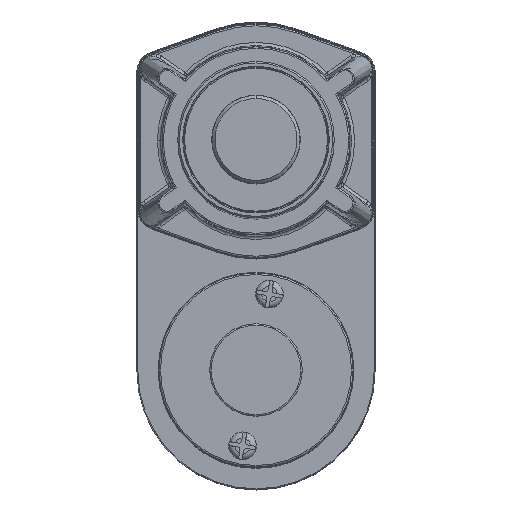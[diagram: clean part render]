
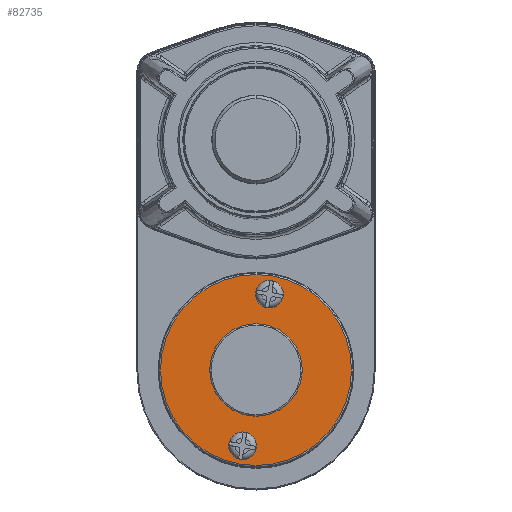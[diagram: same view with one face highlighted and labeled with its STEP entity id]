
A CAD part, top view. The second image highlights one B-rep face of the part: STEP entity #82735.
In plain terms, the highlighted planar face has unit normal (0, 0, 1).
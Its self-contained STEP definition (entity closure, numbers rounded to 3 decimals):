
#747 = AXIS2_PLACEMENT_3D ( 'NONE', #60428, #66387, #8330 ) ;
#856 = CARTESIAN_POINT ( 'NONE',  ( -23.132, -76.733, 284.9 ) ) ;
#925 = FACE_OUTER_BOUND ( 'NONE', #2626, .T. ) ;
#1962 = VERTEX_POINT ( 'NONE', #67743 ) ;
#2626 = EDGE_LOOP ( 'NONE', ( #69393, #29488 ) ) ;
#3771 = ORIENTED_EDGE ( 'NONE', *, *, #61554, .F. ) ;
#4762 = VERTEX_POINT ( 'NONE', #59608 ) ;
#5433 = VERTEX_POINT ( 'NONE', #69090 ) ;
#7645 = CARTESIAN_POINT ( 'NONE',  ( -12.626, -17.152, 284.9 ) ) ;
#8330 = DIRECTION ( 'NONE',  ( -0.174, -0.985, 0. ) ) ;
#8889 = CARTESIAN_POINT ( 'NONE',  ( -21.308, -66.393, 284.9 ) ) ;
#10092 = AXIS2_PLACEMENT_3D ( 'NONE', #37552, #56198, #76562 ) ;
#10600 = EDGE_CURVE ( 'NONE', #4762, #12603, #67512, .T. ) ;
#12603 = VERTEX_POINT ( 'NONE', #8889 ) ;
#15774 = AXIS2_PLACEMENT_3D ( 'NONE', #31474, #70870, #83191 ) ;
#18019 = DIRECTION ( 'NONE',  ( 0., 0., 1. ) ) ;
#20453 = CARTESIAN_POINT ( 'NONE',  ( -15.144, -31.432, 284.9 ) ) ;
#23199 = VERTEX_POINT ( 'NONE', #856 ) ;
#23806 = EDGE_LOOP ( 'NONE', ( #66860, #24923 ) ) ;
#23807 = EDGE_LOOP ( 'NONE', ( #26124, #46422 ) ) ;
#24791 = CARTESIAN_POINT ( 'NONE',  ( -17.749, -46.204, 284.9 ) ) ;
#24923 = ORIENTED_EDGE ( 'NONE', *, *, #29355, .F. ) ;
#25087 = PLANE ( 'NONE',  #15774 ) ;
#25538 = FACE_BOUND ( 'NONE', #23807, .T. ) ;
#26124 = ORIENTED_EDGE ( 'NONE', *, *, #37424, .F. ) ;
#29355 = EDGE_CURVE ( 'NONE', #36467, #81028, #49880, .T. ) ;
#29488 = ORIENTED_EDGE ( 'NONE', *, *, #62336, .T. ) ;
#31474 = CARTESIAN_POINT ( 'NONE',  ( -2.976, -48.809, 284.9 ) ) ;
#36327 = AXIS2_PLACEMENT_3D ( 'NONE', #49403, #82067, #75282 ) ;
#36467 = VERTEX_POINT ( 'NONE', #20453 ) ;
#37424 = EDGE_CURVE ( 'NONE', #12603, #4762, #46639, .T. ) ;
#37516 = AXIS2_PLACEMENT_3D ( 'NONE', #55238, #42075, #75150 ) ;
#37552 = CARTESIAN_POINT ( 'NONE',  ( -22.09, -70.824, 284.9 ) ) ;
#37826 = FACE_BOUND ( 'NONE', #23806, .T. ) ;
#38741 = AXIS2_PLACEMENT_3D ( 'NONE', #51718, #77596, #45342 ) ;
#39132 = AXIS2_PLACEMENT_3D ( 'NONE', #68591, #55063, #62238 ) ;
#39864 = CARTESIAN_POINT ( 'NONE',  ( -17.749, -46.204, 284.9 ) ) ;
#41469 = CIRCLE ( 'NONE', #38741, 4.5 ) ;
#42075 = DIRECTION ( 'NONE',  ( 0., 0., 1. ) ) ;
#44222 = CIRCLE ( 'NONE', #56408, 31. ) ;
#45136 = DIRECTION ( 'NONE',  ( -0.174, -0.985, 0. ) ) ;
#45342 = DIRECTION ( 'NONE',  ( -0.174, -0.985, 0. ) ) ;
#45651 = CIRCLE ( 'NONE', #36327, 4.5 ) ;
#46422 = ORIENTED_EDGE ( 'NONE', *, *, #10600, .F. ) ;
#46639 = CIRCLE ( 'NONE', #10092, 4.5 ) ;
#48993 = EDGE_CURVE ( 'NONE', #23199, #1962, #69782, .T. ) ;
#49403 = CARTESIAN_POINT ( 'NONE',  ( -13.407, -21.584, 284.9 ) ) ;
#49880 = CIRCLE ( 'NONE', #37516, 15. ) ;
#51347 = DIRECTION ( 'NONE',  ( -0.174, -0.985, 0. ) ) ;
#51718 = CARTESIAN_POINT ( 'NONE',  ( -13.407, -21.584, 284.9 ) ) ;
#53063 = EDGE_CURVE ( 'NONE', #64440, #5433, #45651, .T. ) ;
#54470 = CARTESIAN_POINT ( 'NONE',  ( -20.353, -60.976, 284.9 ) ) ;
#55063 = DIRECTION ( 'NONE',  ( 0., 0., 1. ) ) ;
#55238 = CARTESIAN_POINT ( 'NONE',  ( -17.749, -46.204, 284.9 ) ) ;
#56198 = DIRECTION ( 'NONE',  ( 0., 0., 1. ) ) ;
#56408 = AXIS2_PLACEMENT_3D ( 'NONE', #24791, #18019, #45136 ) ;
#57959 = ORIENTED_EDGE ( 'NONE', *, *, #53063, .F. ) ;
#59608 = CARTESIAN_POINT ( 'NONE',  ( -22.871, -75.256, 284.9 ) ) ;
#60428 = CARTESIAN_POINT ( 'NONE',  ( -17.749, -46.204, 284.9 ) ) ;
#61153 = CIRCLE ( 'NONE', #69310, 15. ) ;
#61554 = EDGE_CURVE ( 'NONE', #5433, #64440, #41469, .T. ) ;
#62238 = DIRECTION ( 'NONE',  ( -0.174, -0.985, 0. ) ) ;
#62336 = EDGE_CURVE ( 'NONE', #1962, #23199, #44222, .T. ) ;
#64440 = VERTEX_POINT ( 'NONE', #7645 ) ;
#66387 = DIRECTION ( 'NONE',  ( 0., 0., 1. ) ) ;
#66860 = ORIENTED_EDGE ( 'NONE', *, *, #77464, .F. ) ;
#67512 = CIRCLE ( 'NONE', #39132, 4.5 ) ;
#67743 = CARTESIAN_POINT ( 'NONE',  ( -12.365, -15.675, 284.9 ) ) ;
#68591 = CARTESIAN_POINT ( 'NONE',  ( -22.09, -70.824, 284.9 ) ) ;
#69035 = EDGE_LOOP ( 'NONE', ( #57959, #3771 ) ) ;
#69090 = CARTESIAN_POINT ( 'NONE',  ( -14.189, -26.016, 284.9 ) ) ;
#69310 = AXIS2_PLACEMENT_3D ( 'NONE', #39864, #83582, #51347 ) ;
#69393 = ORIENTED_EDGE ( 'NONE', *, *, #48993, .T. ) ;
#69782 = CIRCLE ( 'NONE', #747, 31. ) ;
#70870 = DIRECTION ( 'NONE',  ( 0., 0., 1. ) ) ;
#71716 = FACE_BOUND ( 'NONE', #69035, .T. ) ;
#75150 = DIRECTION ( 'NONE',  ( -0.174, -0.985, 0. ) ) ;
#75282 = DIRECTION ( 'NONE',  ( -0.174, -0.985, 0. ) ) ;
#76562 = DIRECTION ( 'NONE',  ( -0.174, -0.985, 0. ) ) ;
#77464 = EDGE_CURVE ( 'NONE', #81028, #36467, #61153, .T. ) ;
#77596 = DIRECTION ( 'NONE',  ( 0., 0., 1. ) ) ;
#81028 = VERTEX_POINT ( 'NONE', #54470 ) ;
#82067 = DIRECTION ( 'NONE',  ( 0., 0., 1. ) ) ;
#82735 = ADVANCED_FACE ( 'NONE', ( #25538, #71716, #925, #37826 ), #25087, .T. ) ;
#83191 = DIRECTION ( 'NONE',  ( -0.174, -0.985, 0. ) ) ;
#83582 = DIRECTION ( 'NONE',  ( 0., 0., 1. ) ) ;
